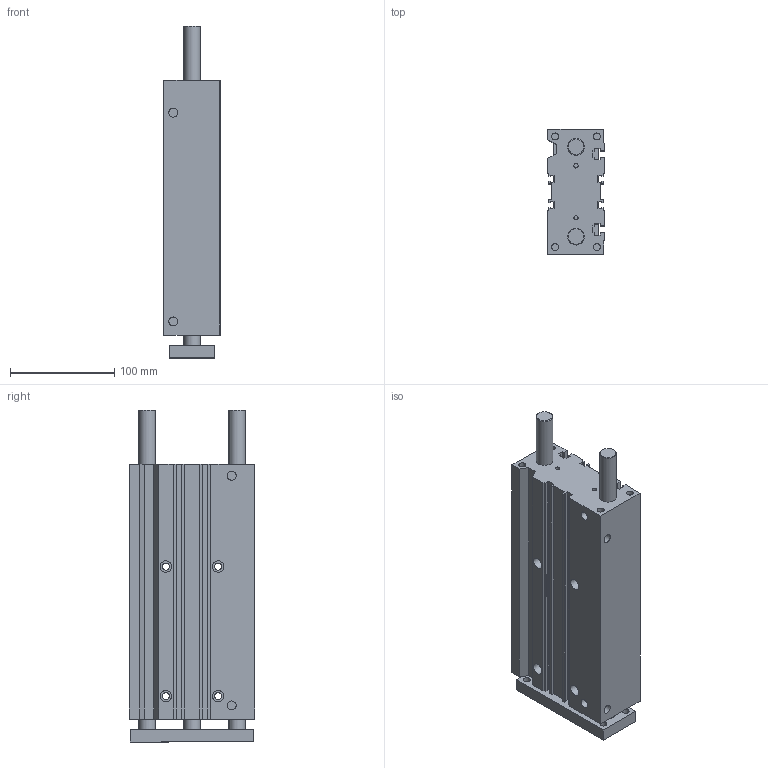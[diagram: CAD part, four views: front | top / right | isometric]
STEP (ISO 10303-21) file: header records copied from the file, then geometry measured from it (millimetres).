
FILE_DESCRIPTION((''),'2;1');
FILE_NAME('I:\Area Tecnica\Disegni\VARIE-3D\Componenti\6100\6100 Ø20-63\6100_##_###_#\6100400200C.stp','2012-01-11T09:12:31',('airolcr1'),(''),'Autodesk Inventor 2012','Autodesk Inventor 2012','');
FILE_SCHEMA(('AUTOMOTIVE_DESIGN { 1 0 10303 214 1 1 1 1 }'));
Length unit declared in the file: millimetre
Products named in the file (3): 6100400200C; CUCORPO Ø40 C200 C; CUPIASTRA Ø40 C200 C
Assembly tree (2 placements, depth 2):
  6100400200C
    CUCORPO Ø40 C200 C
    CUPIASTRA Ø40 C200 C
Bounding box: 54 x 120 x 318 mm (x, y, z)
Volume: 1543884.7 mm3; surface area: 218986.1 mm2
Topology: 2 solids, 2 shells, 166 faces, 417 edges, 277 vertices
Faces by surface type: plane 126, cylinder 38, cone 2
Full cylindrical faces by diameter (mm): 4 x6, 6.647 x8, 6.65 x4, 8.566 x4, 11 x4, 16 x6
Entity records: 5013 total; most frequent: CARTESIAN_POINT 815, DIRECTION 798, ORIENTED_EDGE 750, EDGE_CURVE 375, VECTOR 294, LINE 294, VERTEX_POINT 269, AXIS2_PLACEMENT_3D 252
